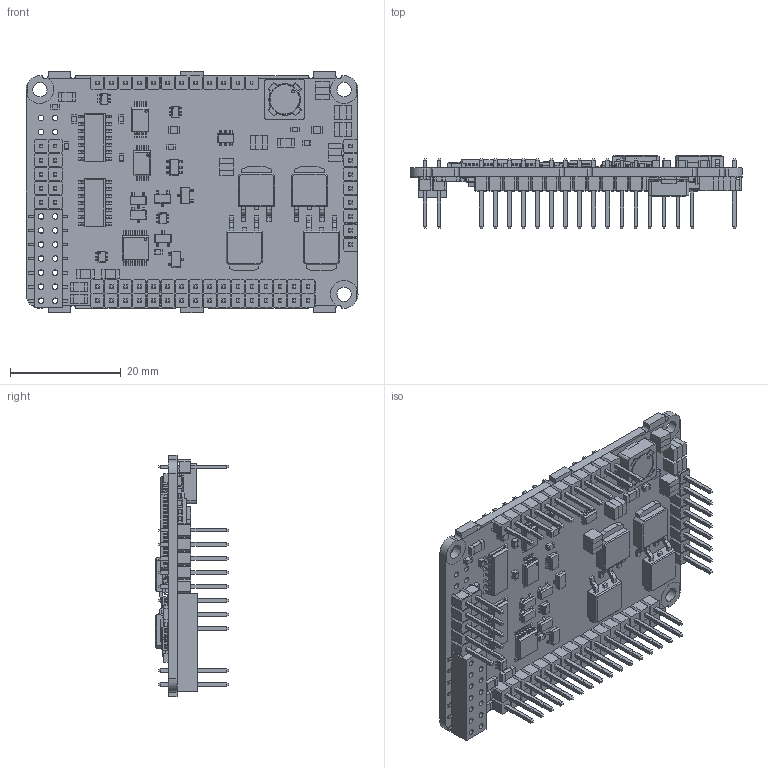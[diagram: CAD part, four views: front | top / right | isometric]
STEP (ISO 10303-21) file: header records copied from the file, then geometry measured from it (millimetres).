
FILE_DESCRIPTION (( 'STEP AP214' ), '1' );
FILE_NAME ('iPOS 4808 MY rev.D.STEP', '2015-06-12T07:45:01', ( 'a_neacsu' ), ( '' ), 'SwSTEP 2.0', 'SolidWorks 2013', '' );
FILE_SCHEMA (( 'AUTOMOTIVE_DESIGN' ));
Length unit declared in the file: millimetre
Products named in the file (22): PQFP_pitch05mm_100; WE-DD-S; DPAK; socket wppro3492 2x7; P027.710.0005.xx-MY-STO; Header_1x2.54_wppro943-13_16 Way; Header_1x2.54_wppro943-13_8 Way; iPOS 4808 MY rev.D; Header_1x2.54_wppro943-13_12 Way; Header_1x2.54_wppro943-13_5 Way; RC_SMD_1206; TSSOP_8; SOTxxx_065mm_6; TSSOP_14; TSSOP_16; RC_SMD_0603; RC_SMD_0805; SO14_14; SOT235_SOT23-6; SOT235; SOT235_SOT23; RC_SMD_1210
Assembly tree (96 placements, depth 2):
  iPOS 4808 MY rev.D
    P027.710.0005.xx-MY-STO
    DPAK  x8
    WE-DD-S
    PQFP_pitch05mm_100
    RC_SMD_1210  x6
    SOT235_SOT23  x13
    SOT235  x2
    SOT235_SOT23-6  x3
    SO14_14  x2
    RC_SMD_0805  x8
    RC_SMD_0603  x19
    TSSOP_16
    TSSOP_14  x2
    SOTxxx_065mm_6  x11
    TSSOP_8  x2
    RC_SMD_1206  x9
    Header_1x2.54_wppro943-13_5 Way  x2
    Header_1x2.54_wppro943-13_12 Way
    Header_1x2.54_wppro943-13_8 Way
    Header_1x2.54_wppro943-13_16 Way  x2
    socket wppro3492 2x7
Bounding box: 60 x 13.2 x 43.6 mm (x, y, z)
Volume: 7015.4 mm3; surface area: 13876.3 mm2
Topology: 95 solids, 184 shells, 8798 faces, 22890 edges, 14640 vertices
Faces by surface type: plane 7002, cylinder 1720, bspline 56, sphere 16, cone 4
Entity records: 197100 total; most frequent: CARTESIAN_POINT 27294, ORIENTED_EDGE 25080, DIRECTION 24014, EDGE_CURVE 12558, VECTOR 10322, LINE 10322, VERTEX_POINT 8046, AXIS2_PLACEMENT_3D 6846
